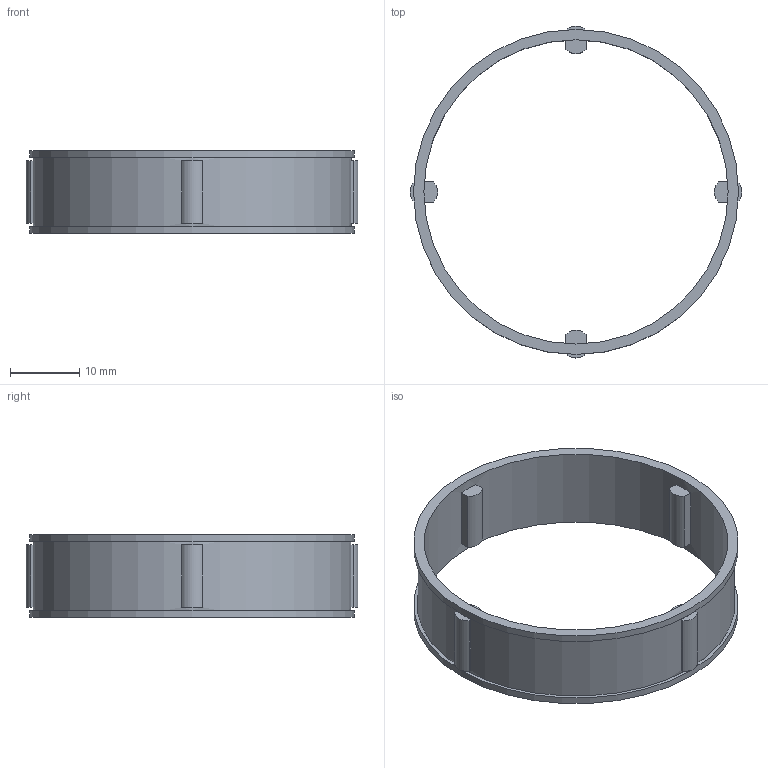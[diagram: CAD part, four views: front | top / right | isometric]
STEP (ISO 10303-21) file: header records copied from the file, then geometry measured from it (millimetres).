
FILE_DESCRIPTION(/* description */ (''),/* implementation_level */ '2;1');
FILE_NAME(/* name */ '300478 FE 448 Z.stp',/* time_stamp */ '2016-11-03T10:25:51+01:00',/* author */ (''),/* organization */ (''),/* preprocessor_version */ 'ST-DEVELOPER v15',/* originating_system */ 'SIEMENS PLM Software NX 8.5',/* authorisation */ '');
FILE_SCHEMA (('CONFIG_CONTROL_DESIGN'));
Length unit declared in the file: millimetre
Products named in the file (1): ATE0000080_01
Bounding box: 48 x 48 x 12 mm (x, y, z)
Volume: 2118.1 mm3; surface area: 4184.3 mm2
Topology: 1 solids, 1 shells, 48 faces, 114 edges, 76 vertices
Faces by surface type: plane 36, cylinder 12
Full cylindrical faces by diameter (mm): 44 x1, 46 x1, 47 x2
Entity records: 1420 total; most frequent: DIRECTION 242, CARTESIAN_POINT 225, ORIENTED_EDGE 208, EDGE_CURVE 104, AXIS2_PLACEMENT_3D 89, VERTEX_POINT 72, LINE 64, VECTOR 64
